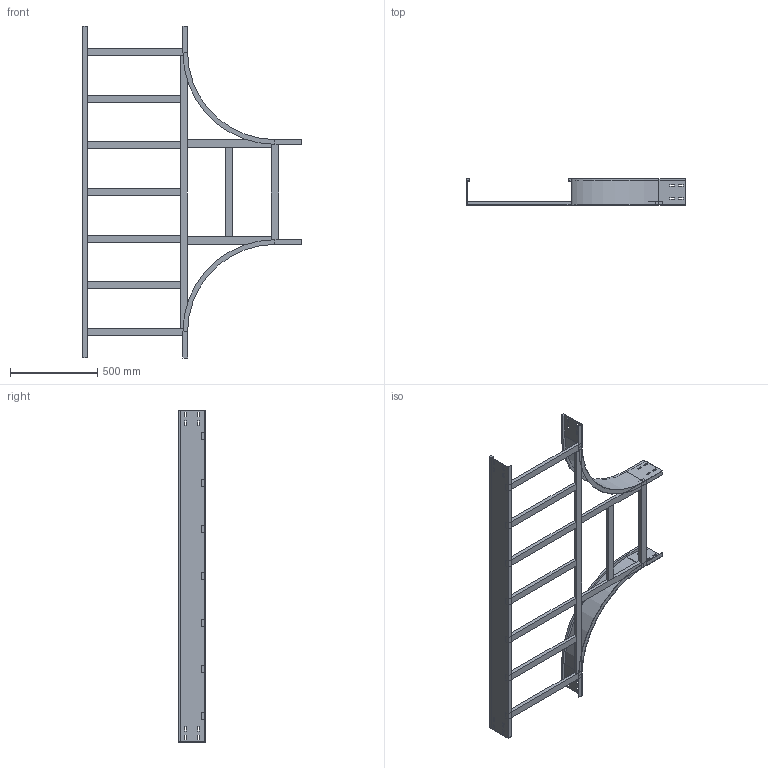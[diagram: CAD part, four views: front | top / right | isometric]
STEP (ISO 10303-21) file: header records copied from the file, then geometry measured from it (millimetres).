
FILE_DESCRIPTION (( 'STEP AP214' ), '1' );
FILE_NAME ('15J5F600.step', '2025-02-21T16:28:17', ( '' ), ( '' ), 'SwSTEP 2.0', 'SolidWorks 2023', '' );
FILE_SCHEMA (( 'AUTOMOTIVE_DESIGN' ));
Length unit declared in the file: millimetre
Products named in the file (8): TRAVERSINO_COPPIA_600; TRAVERSINO_600; LONGH.RETT_H150_R500+600; 15J5F600; TRAVERSINO_VERT_R500; TRAVERSINO_LONG._R500+600; TRAVERSINO_INTERMEDIO_R500+600; LONGH.INTERNO 90°_H150_R500
Assembly tree (15 placements, depth 2):
  15J5F600
    LONGH.INTERNO 90°_H150_R500  x2
    LONGH.RETT_H150_R500+600
    TRAVERSINO_600  x3
    TRAVERSINO_LONG._R500+600
    TRAVERSINO_INTERMEDIO_R500+600  x5
    TRAVERSINO_VERT_R500  x2
    TRAVERSINO_COPPIA_600
Bounding box: 1250 x 150 x 1900 mm (x, y, z)
Volume: 8363658.6 mm3; surface area: 2511505.2 mm2
Topology: 15 solids, 15 shells, 230 faces, 568 edges, 368 vertices
Faces by surface type: plane 222, cylinder 8
Entity records: 4217 total; most frequent: CARTESIAN_POINT 696, ORIENTED_EDGE 664, DIRECTION 636, EDGE_CURVE 332, LINE 324, VECTOR 324, VERTEX_POINT 216, EDGE_LOOP 162
